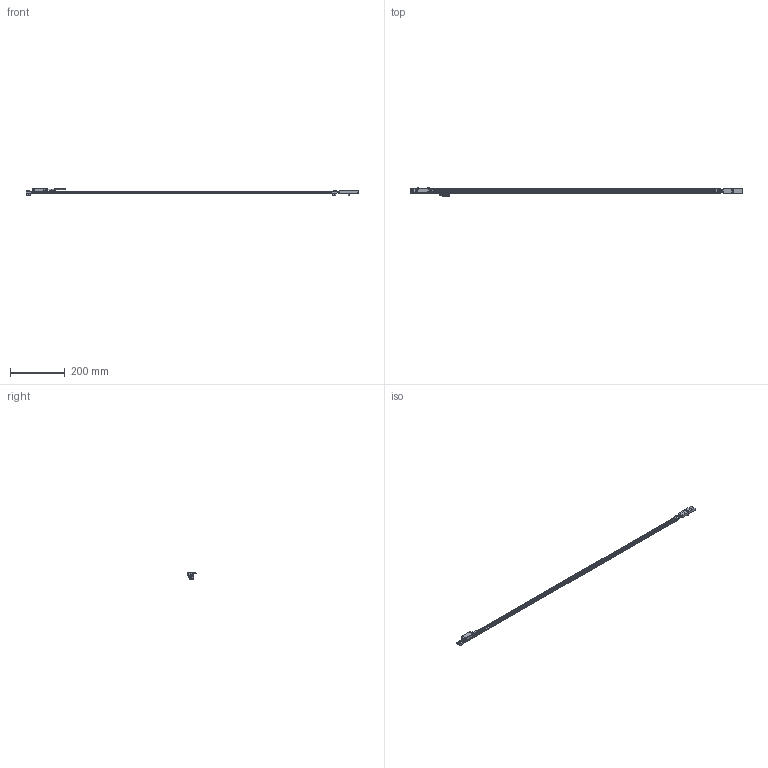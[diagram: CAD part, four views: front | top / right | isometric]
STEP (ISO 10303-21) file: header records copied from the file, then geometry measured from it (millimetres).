
FILE_DESCRIPTION(('Creo Elements/Direct Modeling STEP Export'),'2;1');
FILE_NAME('EXT_EXTA-1040.stp','2017-02-20T12:53:34',(''),(''),'Creo Elements/Direct Modeling STEP processor for AP214 (Solid Model)','Creo Elements/Direct Modeling 18.1H 24-Oct-2015 (C) Parametric Technology GmbH','');
FILE_SCHEMA(('AUTOMOTIVE_DESIGN { 1 0 10303 214 1 1 1 1 }'));
Length unit declared in the file: millimetre
Products named in the file (15): RESORTE_TENSOR; DIN_433_4.3_ARANDELA_INOX; TIRANTE_TENSOR; CARCASA_TENSOR; DIN912_M4X45_TORNILLO; DIN7984_M4X14_TORNILLO.1.1; SUBCONJUNTO_TENSOR_REGLA_EXPOSED_TENSADA; BRIDA_INFERIOR; BRIDA_SUPERIOR; DIN7984_M4X8_TORNILLO; SUBC_BRIDA_EXPOSED.1; FLEJE_REGLA_EXPOSED_ABS_GUIADA.1; CABEZA_REGLA_EXPOSED; PERFIL_ALTO_EXPOSED; EXT_EXTA-1040
Assembly tree (18 placements, depth 3):
  EXT_EXTA-1040
    PERFIL_ALTO_EXPOSED
    CABEZA_REGLA_EXPOSED
    FLEJE_REGLA_EXPOSED_ABS_GUIADA.1
    SUBC_BRIDA_EXPOSED.1  x2
      DIN7984_M4X14_TORNILLO.1.1
      DIN7984_M4X8_TORNILLO
      BRIDA_SUPERIOR
      BRIDA_INFERIOR
    SUBCONJUNTO_TENSOR_REGLA_EXPOSED_TENSADA
      DIN7984_M4X14_TORNILLO.1.1  x2
      DIN912_M4X45_TORNILLO
      CARCASA_TENSOR
      TIRANTE_TENSOR
      DIN_433_4.3_ARANDELA_INOX  x2
      RESORTE_TENSOR
Bounding box: 1214 x 29.33 x 25.2 mm (x, y, z)
Volume: 121350.8 mm3; surface area: 98614.3 mm2
Topology: 19 solids, 21 shells, 585 faces, 1502 edges, 991 vertices
Faces by surface type: plane 330, cylinder 177, cone 54, torus 22, bspline 2
Entity records: 19316 total; most frequent: CARTESIAN_POINT 6303, ORIENTED_EDGE 2444, DIRECTION 2192, EDGE_CURVE 1222, VERTEX_POINT 806, VECTOR 792, LINE 792, AXIS2_PLACEMENT_3D 700
